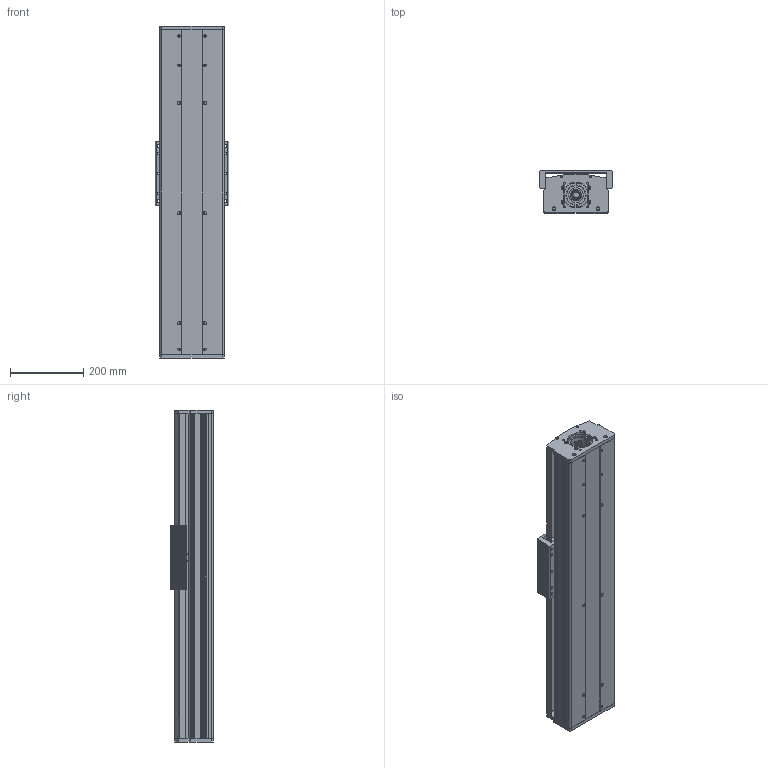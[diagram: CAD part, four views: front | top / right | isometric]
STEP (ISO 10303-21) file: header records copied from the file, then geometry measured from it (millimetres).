
FILE_DESCRIPTION (( 'STEP AP203' ), '1' );
FILE_NAME ('CF175-2-P550.STEP', '2016-02-23T08:27:16', ( 'Sky123.Org' ), ( 'Sky123.Org' ), 'SwSTEP 2.0', 'SolidWorks 2015', '' );
FILE_SCHEMA (( 'CONFIG_CONTROL_DESIGN' ));
Length unit declared in the file: millimetre
Products named in the file (13): Y1-CF175-2-P1200-1547裔啣; Y1-CF175-2-P1200-1547臏倰第; Y1-HGR20-1500絳寢; CF-HGH20CA賑輸; CF175-2賑雄啣; SFU2505-4; 175-2梓袧嘐隅釱; X1-SFS2525-1185; 175-2侜督80萇儂釱; 175-2耜啣; CF175-2-P550; 175-2盓傅釱; CF175-2蹟譫釱
Assembly tree (16 placements, depth 2):
  CF175-2-P550
    CF-HGH20CA賑輸  x4
    SFU2505-4
    X1-SFS2525-1185
    175-2耜啣
    175-2盓傅釱
    CF175-2蹟譫釱
    Y1-CF175-2-P1200-1547裔啣
    Y1-CF175-2-P1200-1547臏倰第
    Y1-HGR20-1500絳寢  x2
    CF175-2賑雄啣
    175-2梓袧嘐隅釱
    175-2侜督80萇儂釱
Bounding box: 200 x 116.8 x 905 mm (x, y, z)
Volume: 7714177 mm3; surface area: 2084546.6 mm2
Topology: 22 solids, 22 shells, 1424 faces, 3762 edges, 2492 vertices
Faces by surface type: cylinder 745, plane 655, cone 20, bspline 4
Entity records: 42318 total; most frequent: CARTESIAN_POINT 11246, DIRECTION 6428, ORIENTED_EDGE 5994, EDGE_CURVE 2997, AXIS2_PLACEMENT_3D 2407, VERTEX_POINT 1984, VECTOR 1614, LINE 1614
